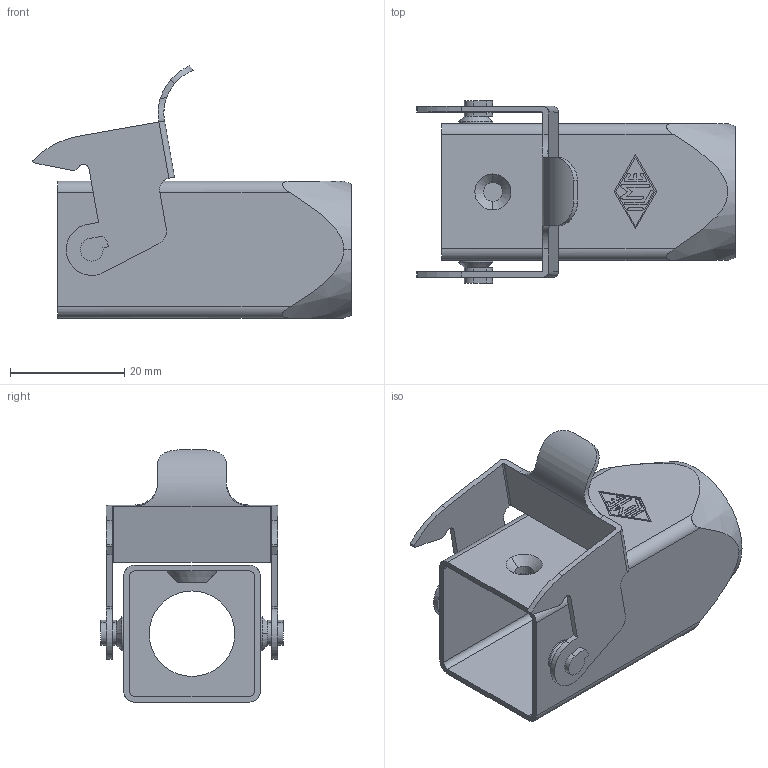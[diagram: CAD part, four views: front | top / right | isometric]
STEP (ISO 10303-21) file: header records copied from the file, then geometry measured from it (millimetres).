
FILE_DESCRIPTION (( 'STEP AP203' ), '1' );
FILE_NAME ('CKA-03VGS2.STEP', '2016-02-25T19:53:20', ( 'Mencom User' ), ( 'Hewlett-Packard Company' ), 'SwSTEP 2.0', 'SolidWorks 2015', '' );
FILE_SCHEMA (( 'CONFIG_CONTROL_DESIGN' ));
Length unit declared in the file: millimetre
Products named in the file (1): CKA-03VGS2
Bounding box: 55.84 x 32 x 44.23 mm (x, y, z)
Volume: 8733.8 mm3; surface area: 12037.6 mm2
Topology: 1 solids, 1 shells, 169 faces, 453 edges, 298 vertices
Faces by surface type: plane 86, cylinder 74, cone 9
Entity records: 5698 total; most frequent: CARTESIAN_POINT 1273, DIRECTION 923, ORIENTED_EDGE 906, EDGE_CURVE 453, AXIS2_PLACEMENT_3D 322, VERTEX_POINT 298, LINE 279, VECTOR 279
